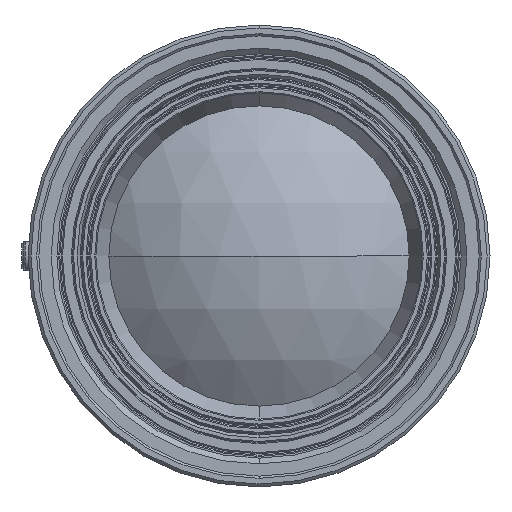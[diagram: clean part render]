
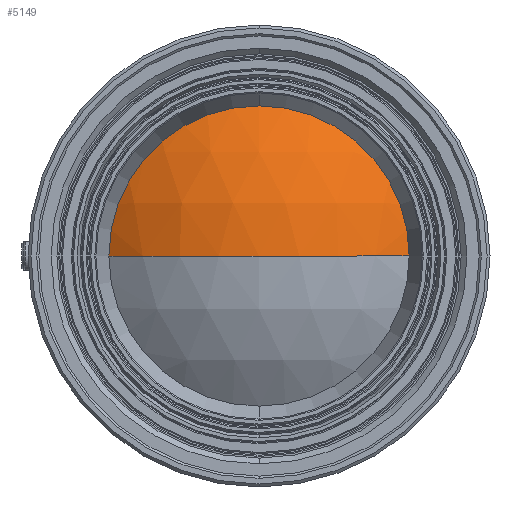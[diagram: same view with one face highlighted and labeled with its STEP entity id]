
A CAD part, left-side view. The second image highlights one B-rep face of the part: STEP entity #5149.
In plain terms, the highlighted spherical face has radius 42.5 mm.
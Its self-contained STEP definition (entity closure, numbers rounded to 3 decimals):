
#99 = DIRECTION ( 'NONE',  ( -1., 0., 0. ) ) ;
#162 = VERTEX_POINT ( 'NONE', #4482 ) ;
#207 = EDGE_CURVE ( 'NONE', #6093, #3705, #1930, .T. ) ;
#356 = DIRECTION ( 'NONE',  ( 1., 0., 0. ) ) ;
#417 = ORIENTED_EDGE ( 'NONE', *, *, #524, .F. ) ;
#524 = EDGE_CURVE ( 'NONE', #4783, #162, #5244, .T. ) ;
#916 = ORIENTED_EDGE ( 'NONE', *, *, #207, .T. ) ;
#1220 = CARTESIAN_POINT ( 'NONE',  ( 29.172, -26., 0. ) ) ;
#1452 = DIRECTION ( 'NONE',  ( 0., 0., 1. ) ) ;
#1541 = FACE_OUTER_BOUND ( 'NONE', #3371, .T. ) ;
#1699 = EDGE_CURVE ( 'NONE', #6093, #4783, #4785, .T. ) ;
#1930 = CIRCLE ( 'NONE', #5779, 42.5 ) ;
#1988 = DIRECTION ( 'NONE',  ( 1., 0., 0. ) ) ;
#2317 = DIRECTION ( 'NONE',  ( 0., 0., 1. ) ) ;
#2583 = AXIS2_PLACEMENT_3D ( 'NONE', #4892, #1988, #5370 ) ;
#2699 = SPHERICAL_SURFACE ( 'NONE', #3545, 42.5 ) ;
#2850 = AXIS2_PLACEMENT_3D ( 'NONE', #3272, #356, #3750 ) ;
#2928 = DIRECTION ( 'NONE',  ( 0., 1., 0. ) ) ;
#3024 = DIRECTION ( 'NONE',  ( 0., 0., -1. ) ) ;
#3272 = CARTESIAN_POINT ( 'NONE',  ( 29.172, 0., 0. ) ) ;
#3371 = EDGE_LOOP ( 'NONE', ( #4962, #916, #4090, #417 ) ) ;
#3545 = AXIS2_PLACEMENT_3D ( 'NONE', #5313, #1452, #2928 ) ;
#3705 = VERTEX_POINT ( 'NONE', #1220 ) ;
#3750 = DIRECTION ( 'NONE',  ( 0., 0., -1. ) ) ;
#4090 = ORIENTED_EDGE ( 'NONE', *, *, #6173, .F. ) ;
#4460 = CARTESIAN_POINT ( 'NONE',  ( 29.172, 26., 0. ) ) ;
#4482 = CARTESIAN_POINT ( 'NONE',  ( 29.172, 0., 26. ) ) ;
#4783 = VERTEX_POINT ( 'NONE', #4460 ) ;
#4785 = CIRCLE ( 'NONE', #6070, 42.5 ) ;
#4863 = CARTESIAN_POINT ( 'NONE',  ( 20.291, 0., 0. ) ) ;
#4892 = CARTESIAN_POINT ( 'NONE',  ( 29.172, 0., 0. ) ) ;
#4962 = ORIENTED_EDGE ( 'NONE', *, *, #1699, .F. ) ;
#4998 = CIRCLE ( 'NONE', #2850, 26. ) ;
#5149 = ADVANCED_FACE ( 'NONE', ( #1541 ), #2699, .T. ) ;
#5201 = CARTESIAN_POINT ( 'NONE',  ( 62.791, 0., 0. ) ) ;
#5244 = CIRCLE ( 'NONE', #2583, 26. ) ;
#5313 = CARTESIAN_POINT ( 'NONE',  ( 62.791, 0., 0. ) ) ;
#5370 = DIRECTION ( 'NONE',  ( 0., 0., -1. ) ) ;
#5697 = DIRECTION ( 'NONE',  ( 0., -1., 0. ) ) ;
#5779 = AXIS2_PLACEMENT_3D ( 'NONE', #5201, #2317, #5697 ) ;
#5910 = CARTESIAN_POINT ( 'NONE',  ( 62.791, 0., 0. ) ) ;
#6070 = AXIS2_PLACEMENT_3D ( 'NONE', #5910, #3024, #99 ) ;
#6093 = VERTEX_POINT ( 'NONE', #4863 ) ;
#6173 = EDGE_CURVE ( 'NONE', #162, #3705, #4998, .T. ) ;
